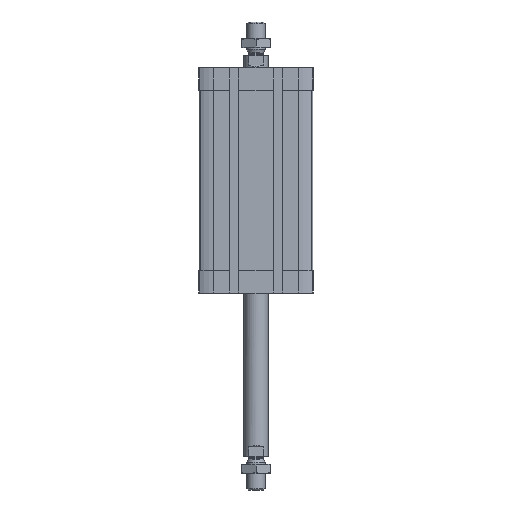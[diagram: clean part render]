
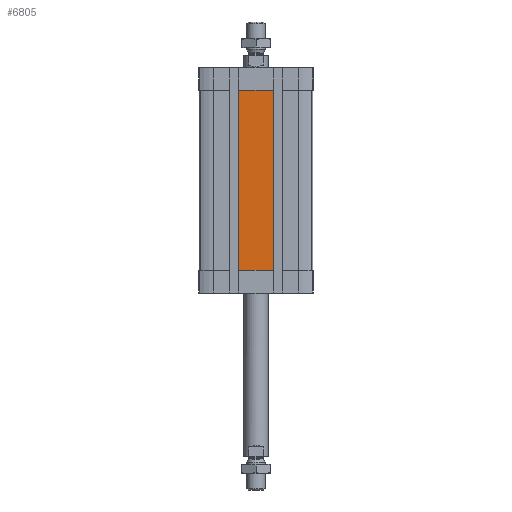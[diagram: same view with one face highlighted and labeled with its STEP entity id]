
A CAD part, front view. The second image highlights one B-rep face of the part: STEP entity #6805.
In plain terms, the highlighted planar face has unit normal (0, -1, 0).
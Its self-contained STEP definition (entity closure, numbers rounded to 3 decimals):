
#219 = CARTESIAN_POINT ( 'NONE',  ( -11.4, -37.5, -134. ) ) ;
#490 = DIRECTION ( 'NONE',  ( 1., 0., 0. ) ) ;
#631 = VECTOR ( 'NONE', #15543, 1000. ) ;
#1798 = CARTESIAN_POINT ( 'NONE',  ( -11.4, -37.5, -15. ) ) ;
#2250 = ORIENTED_EDGE ( 'NONE', *, *, #8037, .F. ) ;
#2525 = FACE_OUTER_BOUND ( 'NONE', #13711, .T. ) ;
#2562 = EDGE_CURVE ( 'NONE', #6406, #2652, #7789, .T. ) ;
#2652 = VERTEX_POINT ( 'NONE', #2816 ) ;
#2816 = CARTESIAN_POINT ( 'NONE',  ( 11.4, -37.5, -15. ) ) ;
#2846 = LINE ( 'NONE', #1798, #7261 ) ;
#3214 = VECTOR ( 'NONE', #10585, 1000. ) ;
#3333 = CARTESIAN_POINT ( 'NONE',  ( -11.4, -37.5, -134. ) ) ;
#3427 = PLANE ( 'NONE',  #12810 ) ;
#3461 = EDGE_CURVE ( 'NONE', #8237, #2652, #2846, .T. ) ;
#3870 = CARTESIAN_POINT ( 'NONE',  ( 11.4, -37.5, -134. ) ) ;
#3909 = VERTEX_POINT ( 'NONE', #3333 ) ;
#4255 = ORIENTED_EDGE ( 'NONE', *, *, #3461, .F. ) ;
#5083 = CARTESIAN_POINT ( 'NONE',  ( 11.4, -37.5, -134. ) ) ;
#5207 = DIRECTION ( 'NONE',  ( 0., -1., 0. ) ) ;
#5438 = DIRECTION ( 'NONE',  ( 1., 0., 0. ) ) ;
#5756 = CARTESIAN_POINT ( 'NONE',  ( -11.4, -37.5, -15. ) ) ;
#5892 = ORIENTED_EDGE ( 'NONE', *, *, #10517, .T. ) ;
#6088 = VECTOR ( 'NONE', #5438, 1000. ) ;
#6122 = CARTESIAN_POINT ( 'NONE',  ( -11.4, -37.5, -134. ) ) ;
#6406 = VERTEX_POINT ( 'NONE', #3870 ) ;
#6805 = ADVANCED_FACE ( 'NONE', ( #2525 ), #3427, .T. ) ;
#7261 = VECTOR ( 'NONE', #490, 1000. ) ;
#7789 = LINE ( 'NONE', #5083, #3214 ) ;
#8037 = EDGE_CURVE ( 'NONE', #3909, #8237, #16857, .T. ) ;
#8237 = VERTEX_POINT ( 'NONE', #5756 ) ;
#10224 = CARTESIAN_POINT ( 'NONE',  ( -11.4, -37.5, -134. ) ) ;
#10517 = EDGE_CURVE ( 'NONE', #3909, #6406, #15934, .T. ) ;
#10585 = DIRECTION ( 'NONE',  ( 0., 0., 1. ) ) ;
#12810 = AXIS2_PLACEMENT_3D ( 'NONE', #6122, #5207, #15380 ) ;
#13563 = ORIENTED_EDGE ( 'NONE', *, *, #2562, .T. ) ;
#13711 = EDGE_LOOP ( 'NONE', ( #4255, #2250, #5892, #13563 ) ) ;
#15380 = DIRECTION ( 'NONE',  ( 0., 0., -1. ) ) ;
#15543 = DIRECTION ( 'NONE',  ( 0., 0., 1. ) ) ;
#15934 = LINE ( 'NONE', #219, #6088 ) ;
#16857 = LINE ( 'NONE', #10224, #631 ) ;
